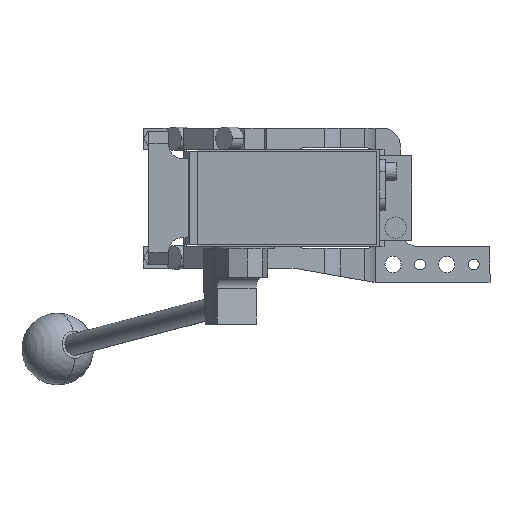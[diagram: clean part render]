
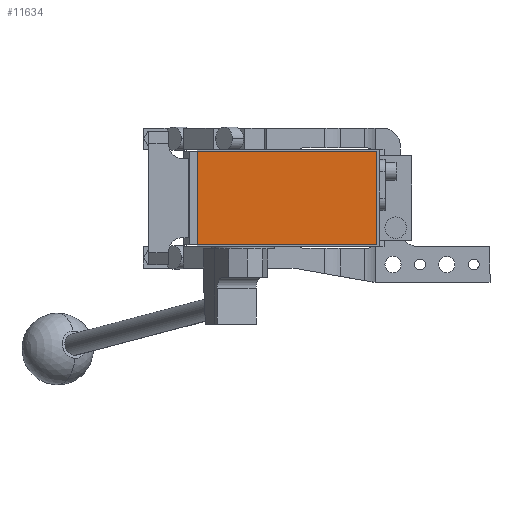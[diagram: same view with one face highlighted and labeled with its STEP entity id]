
A CAD part, front view. The second image highlights one B-rep face of the part: STEP entity #11634.
In plain terms, the highlighted planar face has unit normal (0, -1, 0).
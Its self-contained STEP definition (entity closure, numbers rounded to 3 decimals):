
#355 = CARTESIAN_POINT ( 'NONE',  ( -19., -286.5, 26. ) ) ;
#960 = CARTESIAN_POINT ( 'NONE',  ( 0., -286.5, 0. ) ) ;
#1095 = DIRECTION ( 'NONE',  ( 1., 0., 0. ) ) ;
#1112 = DIRECTION ( 'NONE',  ( 0., 0., -1. ) ) ;
#1712 = EDGE_CURVE ( 'NONE', #15041, #16091, #8578, .T. ) ;
#3502 = FACE_OUTER_BOUND ( 'NONE', #12592, .T. ) ;
#4084 = LINE ( 'NONE', #15107, #9260 ) ;
#4161 = ORIENTED_EDGE ( 'NONE', *, *, #1712, .T. ) ;
#4360 = EDGE_CURVE ( 'NONE', #9802, #15041, #7182, .T. ) ;
#4628 = PLANE ( 'NONE',  #13786 ) ;
#4793 = CARTESIAN_POINT ( 'NONE',  ( -19., -286.5, 26. ) ) ;
#5864 = DIRECTION ( 'NONE',  ( 0., -1., 0. ) ) ;
#7182 = LINE ( 'NONE', #11050, #8572 ) ;
#7344 = CARTESIAN_POINT ( 'NONE',  ( 81., -286.5, 26. ) ) ;
#7429 = LINE ( 'NONE', #4793, #13771 ) ;
#7808 = DIRECTION ( 'NONE',  ( 0., 0., 1. ) ) ;
#7855 = CARTESIAN_POINT ( 'NONE',  ( 81., -286.5, -26. ) ) ;
#8405 = VECTOR ( 'NONE', #1095, 1000. ) ;
#8572 = VECTOR ( 'NONE', #1112, 1000. ) ;
#8578 = LINE ( 'NONE', #11882, #8405 ) ;
#8981 = ORIENTED_EDGE ( 'NONE', *, *, #15900, .T. ) ;
#9125 = ORIENTED_EDGE ( 'NONE', *, *, #4360, .T. ) ;
#9175 = EDGE_CURVE ( 'NONE', #16091, #9697, #4084, .T. ) ;
#9260 = VECTOR ( 'NONE', #7808, 1000. ) ;
#9697 = VERTEX_POINT ( 'NONE', #7344 ) ;
#9802 = VERTEX_POINT ( 'NONE', #355 ) ;
#11050 = CARTESIAN_POINT ( 'NONE',  ( -19., -286.5, 26. ) ) ;
#11634 = ADVANCED_FACE ( 'NONE', ( #3502 ), #4628, .T. ) ;
#11882 = CARTESIAN_POINT ( 'NONE',  ( -19., -286.5, -26. ) ) ;
#12592 = EDGE_LOOP ( 'NONE', ( #9125, #4161, #15388, #8981 ) ) ;
#13568 = CARTESIAN_POINT ( 'NONE',  ( -19., -286.5, -26. ) ) ;
#13771 = VECTOR ( 'NONE', #16145, 1000. ) ;
#13786 = AXIS2_PLACEMENT_3D ( 'NONE', #960, #5864, #16050 ) ;
#15041 = VERTEX_POINT ( 'NONE', #13568 ) ;
#15107 = CARTESIAN_POINT ( 'NONE',  ( 81., -286.5, 26. ) ) ;
#15388 = ORIENTED_EDGE ( 'NONE', *, *, #9175, .T. ) ;
#15900 = EDGE_CURVE ( 'NONE', #9697, #9802, #7429, .T. ) ;
#16050 = DIRECTION ( 'NONE',  ( 0., 0., -1. ) ) ;
#16091 = VERTEX_POINT ( 'NONE', #7855 ) ;
#16145 = DIRECTION ( 'NONE',  ( -1., 0., 0. ) ) ;
